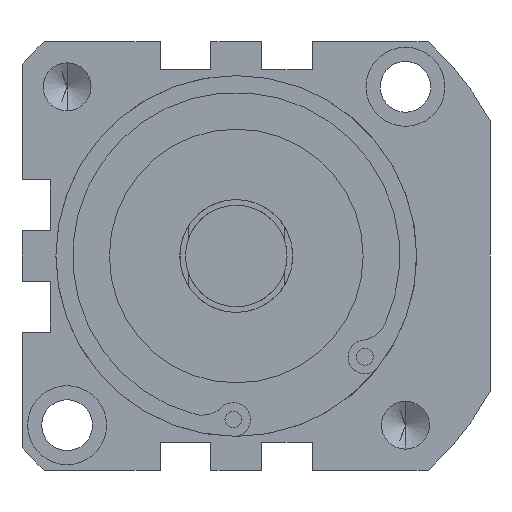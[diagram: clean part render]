
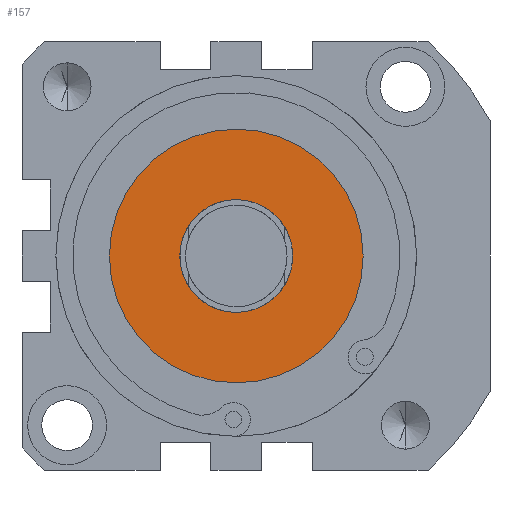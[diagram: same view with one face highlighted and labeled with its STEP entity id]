
A CAD part, front view. The second image highlights one B-rep face of the part: STEP entity #157.
In plain terms, the highlighted planar face has unit normal (0, -1, 0).
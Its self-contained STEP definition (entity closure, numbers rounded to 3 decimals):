
#9 = AXIS2_PLACEMENT_3D ( 'NONE', #22, #2827, #3137 ) ;
#22 = CARTESIAN_POINT ( 'NONE',  ( 0., -56., 0. ) ) ;
#30 = CARTESIAN_POINT ( 'NONE',  ( 0., -56., -22.5 ) ) ;
#157 = ADVANCED_FACE ( 'NONE', ( #401, #2953 ), #2768, .F. ) ;
#259 = ORIENTED_EDGE ( 'NONE', *, *, #1780, .T. ) ;
#347 = DIRECTION ( 'NONE',  ( 0., 1., 0. ) ) ;
#401 = FACE_BOUND ( 'NONE', #4466, .T. ) ;
#539 = VERTEX_POINT ( 'NONE', #4403 ) ;
#642 = AXIS2_PLACEMENT_3D ( 'NONE', #2970, #3606, #2939 ) ;
#1085 = AXIS2_PLACEMENT_3D ( 'NONE', #4193, #347, #1748 ) ;
#1153 = CIRCLE ( 'NONE', #642, 22.5 ) ;
#1316 = ORIENTED_EDGE ( 'NONE', *, *, #2816, .F. ) ;
#1339 = CARTESIAN_POINT ( 'NONE',  ( 0., -56., 0. ) ) ;
#1678 = DIRECTION ( 'NONE',  ( 0., 1., 0. ) ) ;
#1705 = EDGE_CURVE ( 'NONE', #4443, #4432, #4073, .T. ) ;
#1748 = DIRECTION ( 'NONE',  ( 0., 0., 1. ) ) ;
#1749 = ORIENTED_EDGE ( 'NONE', *, *, #2324, .T. ) ;
#1780 = EDGE_CURVE ( 'NONE', #539, #3771, #3466, .T. ) ;
#2054 = DIRECTION ( 'NONE',  ( 0., 0., 1. ) ) ;
#2324 = EDGE_CURVE ( 'NONE', #3771, #539, #3685, .T. ) ;
#2393 = CARTESIAN_POINT ( 'NONE',  ( 0., -56., 22.5 ) ) ;
#2732 = DIRECTION ( 'NONE',  ( 0., 1., 0. ) ) ;
#2768 = PLANE ( 'NONE',  #3722 ) ;
#2816 = EDGE_CURVE ( 'NONE', #4432, #4443, #1153, .T. ) ;
#2827 = DIRECTION ( 'NONE',  ( 0., 1., 0. ) ) ;
#2939 = DIRECTION ( 'NONE',  ( 0., 0., 1. ) ) ;
#2953 = FACE_OUTER_BOUND ( 'NONE', #3571, .T. ) ;
#2970 = CARTESIAN_POINT ( 'NONE',  ( 0., -56., 0. ) ) ;
#3137 = DIRECTION ( 'NONE',  ( 0., 0., 1. ) ) ;
#3343 = AXIS2_PLACEMENT_3D ( 'NONE', #1339, #1678, #4089 ) ;
#3433 = CARTESIAN_POINT ( 'NONE',  ( 0., -56., 0. ) ) ;
#3466 = CIRCLE ( 'NONE', #1085, 10. ) ;
#3571 = EDGE_LOOP ( 'NONE', ( #3677, #1316 ) ) ;
#3606 = DIRECTION ( 'NONE',  ( 0., 1., 0. ) ) ;
#3677 = ORIENTED_EDGE ( 'NONE', *, *, #1705, .F. ) ;
#3685 = CIRCLE ( 'NONE', #9, 10. ) ;
#3722 = AXIS2_PLACEMENT_3D ( 'NONE', #3433, #2732, #2054 ) ;
#3763 = CARTESIAN_POINT ( 'NONE',  ( 0., -56., 10. ) ) ;
#3771 = VERTEX_POINT ( 'NONE', #3763 ) ;
#4073 = CIRCLE ( 'NONE', #3343, 22.5 ) ;
#4089 = DIRECTION ( 'NONE',  ( 0., 0., 1. ) ) ;
#4193 = CARTESIAN_POINT ( 'NONE',  ( 0., -56., 0. ) ) ;
#4403 = CARTESIAN_POINT ( 'NONE',  ( 0., -56., -10. ) ) ;
#4432 = VERTEX_POINT ( 'NONE', #2393 ) ;
#4443 = VERTEX_POINT ( 'NONE', #30 ) ;
#4466 = EDGE_LOOP ( 'NONE', ( #1749, #259 ) ) ;
